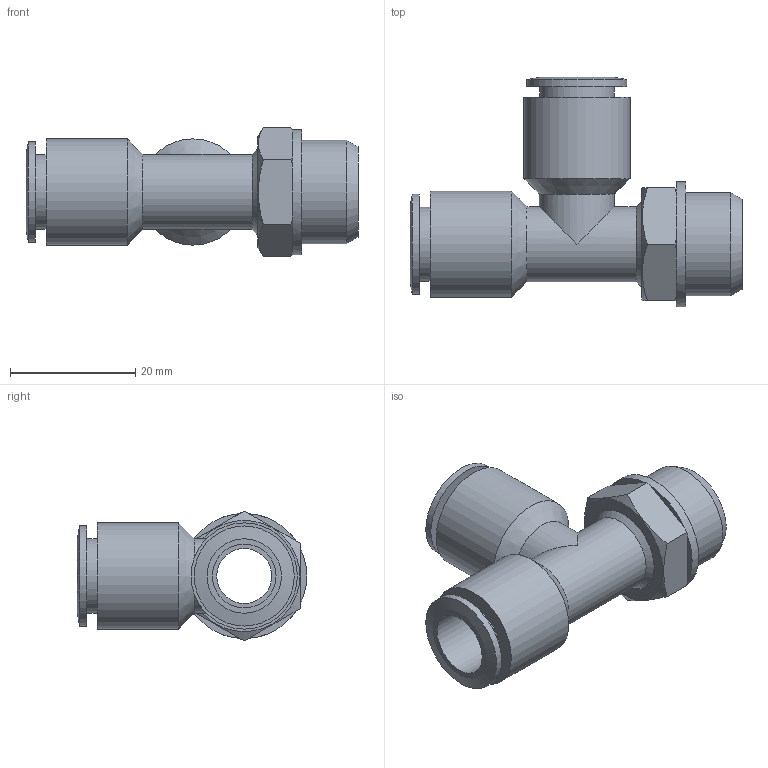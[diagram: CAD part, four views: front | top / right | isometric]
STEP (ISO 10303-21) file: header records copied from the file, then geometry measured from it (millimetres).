
FILE_DESCRIPTION((''),'2;1');
FILE_NAME('C:\Documents and Settings\rivolro1\Documenti\copia di Raccordi\PLASTICA\T21XXXX\T211038.stp','2007-11-02T08:40:00',('Rivolro1'),(''),'Autodesk Inventor 2008','Autodesk Inventor 2008','');
FILE_SCHEMA(('AUTOMOTIVE_DESIGN { 1 0 10303 214 1 1 1 1 }'));
Length unit declared in the file: millimetre
Products named in the file (1): T211038
Bounding box: 53.1 x 36.7 x 20.78 mm (x, y, z)
Volume: 8738.4 mm3; surface area: 7105.6 mm2
Topology: 1 solids, 1 shells, 54 faces, 108 edges, 67 vertices
Faces by surface type: plane 22, cone 13, cylinder 13, bspline 6
Full cylindrical faces by diameter (mm): 11.9 x2, 12 x2, 13.8 x1, 14 x1, 16 x2, 16.5 x1, 17 x2, 20 x1
Entity records: 1430 total; most frequent: CARTESIAN_POINT 377, DIRECTION 204, ORIENTED_EDGE 158, AXIS2_PLACEMENT_3D 96, EDGE_LOOP 90, EDGE_CURVE 79, VERTEX_POINT 61, FACE_OUTER_BOUND 54
